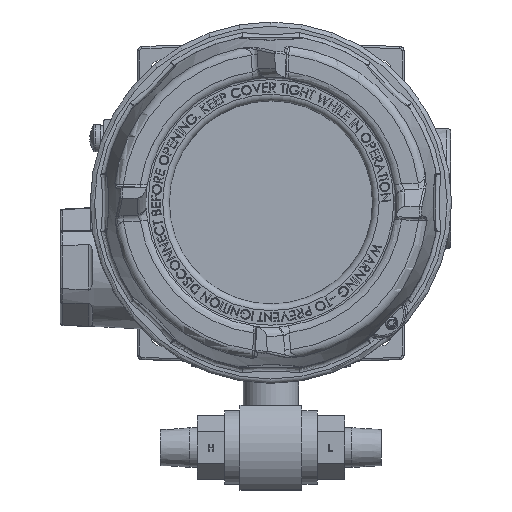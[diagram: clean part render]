
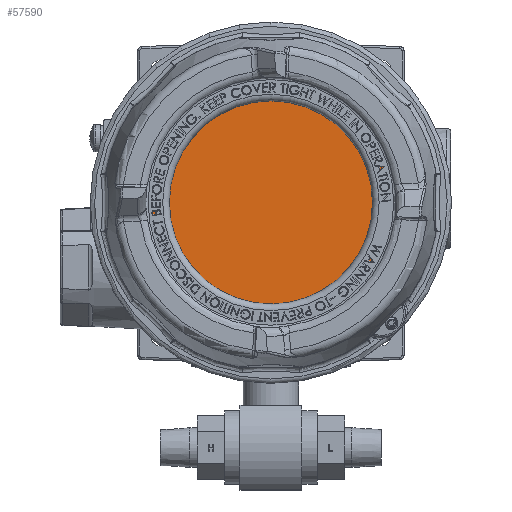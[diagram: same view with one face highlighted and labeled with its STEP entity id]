
A CAD part, top view. The second image highlights one B-rep face of the part: STEP entity #57590.
In plain terms, the highlighted planar face has unit normal (0, 0, 1).
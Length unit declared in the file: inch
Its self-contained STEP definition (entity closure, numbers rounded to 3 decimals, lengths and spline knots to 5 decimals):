
#3939 = DIRECTION ( 'NONE',  ( 0., 0., 1. ) ) ;
#4325 = EDGE_CURVE ( 'NONE', #66439, #66439, #14337, .T. ) ;
#9233 = AXIS2_PLACEMENT_3D ( 'NONE', #27699, #3939, #58198 ) ;
#14337 = CIRCLE ( 'NONE', #9233, 1.775 ) ;
#27260 = AXIS2_PLACEMENT_3D ( 'NONE', #32161, #57110, #73386 ) ;
#27699 = CARTESIAN_POINT ( 'NONE',  ( 0., 0., 3.783 ) ) ;
#32161 = CARTESIAN_POINT ( 'NONE',  ( 0., 0., 3.783 ) ) ;
#36691 = CARTESIAN_POINT ( 'NONE',  ( 1.775, 0., 3.783 ) ) ;
#42428 = ORIENTED_EDGE ( 'NONE', *, *, #4325, .T. ) ;
#51281 = EDGE_LOOP ( 'NONE', ( #42428 ) ) ;
#57110 = DIRECTION ( 'NONE',  ( 0., 0., -1. ) ) ;
#57590 = ADVANCED_FACE ( 'NONE', ( #68228 ), #63058, .F. ) ;
#58198 = DIRECTION ( 'NONE',  ( 1., 0., 0. ) ) ;
#63058 = PLANE ( 'NONE',  #27260 ) ;
#66439 = VERTEX_POINT ( 'NONE', #36691 ) ;
#68228 = FACE_OUTER_BOUND ( 'NONE', #51281, .T. ) ;
#73386 = DIRECTION ( 'NONE',  ( 1., 0., 0. ) ) ;
